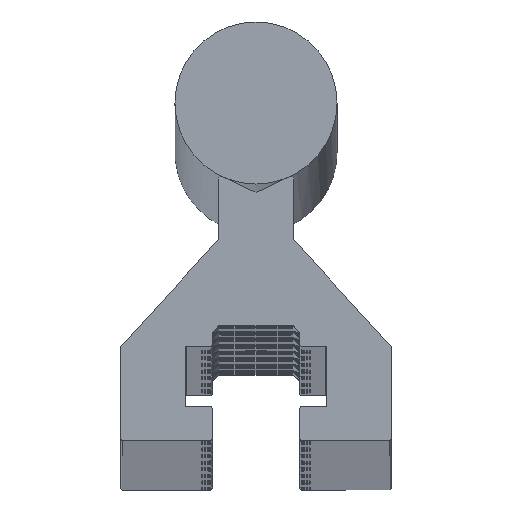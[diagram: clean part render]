
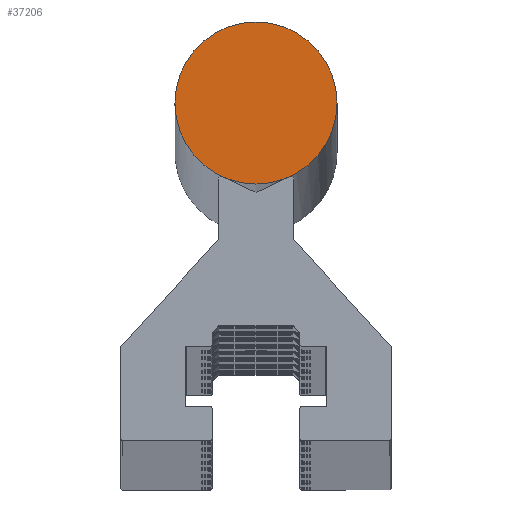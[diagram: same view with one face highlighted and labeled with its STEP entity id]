
A CAD part, top view. The second image highlights one B-rep face of the part: STEP entity #37206.
In plain terms, the highlighted planar face has unit normal (0, 0, 1).
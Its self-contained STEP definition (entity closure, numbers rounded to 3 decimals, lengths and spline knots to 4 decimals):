
#2014 = CIRCLE ( 'NONE', #36184, 6. ) ;
#3354 = CARTESIAN_POINT ( 'NONE',  ( 0., 25., 1. ) ) ;
#7022 = DIRECTION ( 'NONE',  ( 0., 0., 1. ) ) ;
#10223 = EDGE_CURVE ( 'NONE', #24521, #24521, #2014, .T. ) ;
#17979 = PLANE ( 'NONE',  #29744 ) ;
#23370 = ORIENTED_EDGE ( 'NONE', *, *, #10223, .T. ) ;
#24521 = VERTEX_POINT ( 'NONE', #35396 ) ;
#28230 = DIRECTION ( 'NONE',  ( 1., 0., 0. ) ) ;
#28288 = DIRECTION ( 'NONE',  ( 0., 0., 1. ) ) ;
#28342 = CARTESIAN_POINT ( 'NONE',  ( 0., 25., 1. ) ) ;
#29744 = AXIS2_PLACEMENT_3D ( 'NONE', #3354, #7022, #42989 ) ;
#31162 = EDGE_LOOP ( 'NONE', ( #23370 ) ) ;
#35396 = CARTESIAN_POINT ( 'NONE',  ( 6., 25., 1. ) ) ;
#36184 = AXIS2_PLACEMENT_3D ( 'NONE', #28342, #28288, #28230 ) ;
#37206 = ADVANCED_FACE ( 'NONE', ( #42935 ), #17979, .T. ) ;
#42935 = FACE_OUTER_BOUND ( 'NONE', #31162, .T. ) ;
#42989 = DIRECTION ( 'NONE',  ( 1., 0., 0. ) ) ;
